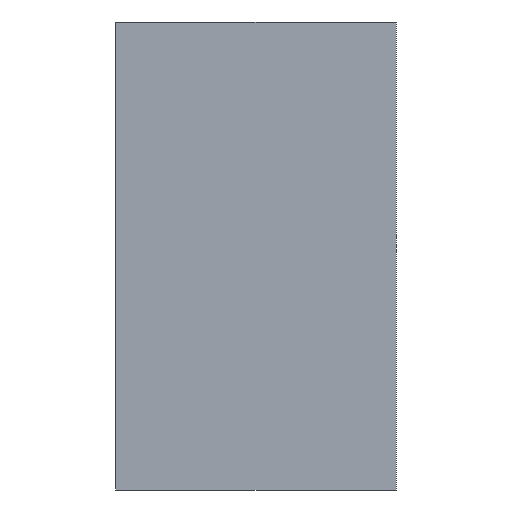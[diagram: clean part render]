
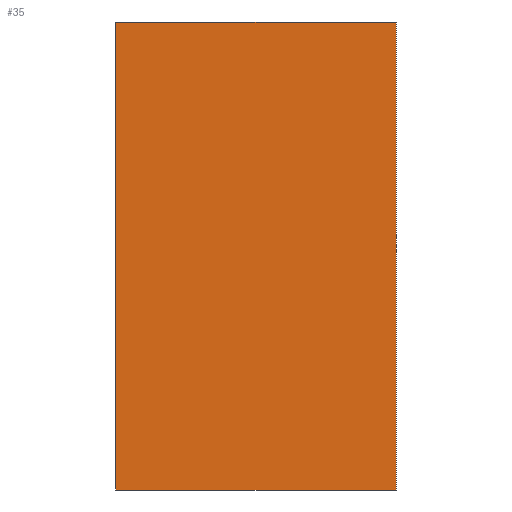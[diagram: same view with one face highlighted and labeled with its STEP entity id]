
A CAD part, top view. The second image highlights one B-rep face of the part: STEP entity #35.
In plain terms, the highlighted planar face has unit normal (0, 0, 1).
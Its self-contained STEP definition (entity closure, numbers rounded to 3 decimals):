
#2 = EDGE_LOOP ( 'NONE', ( #106, #17, #24, #34 ) ) ;
#3 = CARTESIAN_POINT ( 'NONE',  ( 0., 0., 0. ) ) ;
#5 = CARTESIAN_POINT ( 'NONE',  ( -150., 0., 0. ) ) ;
#7 = EDGE_CURVE ( 'NONE', #110, #75, #89, .T. ) ;
#8 = DIRECTION ( 'NONE',  ( 1., 0., 0. ) ) ;
#17 = ORIENTED_EDGE ( 'NONE', *, *, #23, .T. ) ;
#19 = DIRECTION ( 'NONE',  ( 1., 0., 0. ) ) ;
#23 = EDGE_CURVE ( 'NONE', #103, #61, #88, .T. ) ;
#24 = ORIENTED_EDGE ( 'NONE', *, *, #54, .T. ) ;
#28 = PLANE ( 'NONE',  #31 ) ;
#31 = AXIS2_PLACEMENT_3D ( 'NONE', #3, #38, #8 ) ;
#34 = ORIENTED_EDGE ( 'NONE', *, *, #7, .T. ) ;
#35 = ADVANCED_FACE ( 'NONE', ( #105 ), #28, .T. ) ;
#38 = DIRECTION ( 'NONE',  ( 0., 0., 1. ) ) ;
#42 = LINE ( 'NONE', #45, #113 ) ;
#43 = CARTESIAN_POINT ( 'NONE',  ( -150., 250., 0. ) ) ;
#44 = CARTESIAN_POINT ( 'NONE',  ( 0., 0., 0. ) ) ;
#45 = CARTESIAN_POINT ( 'NONE',  ( 0., 250., 0. ) ) ;
#52 = CARTESIAN_POINT ( 'NONE',  ( 0., 250., 0. ) ) ;
#54 = EDGE_CURVE ( 'NONE', #61, #110, #65, .T. ) ;
#61 = VERTEX_POINT ( 'NONE', #95 ) ;
#64 = VECTOR ( 'NONE', #93, 1000. ) ;
#65 = LINE ( 'NONE', #43, #82 ) ;
#75 = VERTEX_POINT ( 'NONE', #44 ) ;
#80 = VECTOR ( 'NONE', #19, 1000. ) ;
#82 = VECTOR ( 'NONE', #96, 1000. ) ;
#84 = EDGE_CURVE ( 'NONE', #75, #103, #42, .T. ) ;
#88 = LINE ( 'NONE', #94, #64 ) ;
#89 = LINE ( 'NONE', #107, #80 ) ;
#93 = DIRECTION ( 'NONE',  ( -1., 0., 0. ) ) ;
#94 = CARTESIAN_POINT ( 'NONE',  ( -150., 250., 0. ) ) ;
#95 = CARTESIAN_POINT ( 'NONE',  ( -150., 250., 0. ) ) ;
#96 = DIRECTION ( 'NONE',  ( 0., -1., 0. ) ) ;
#103 = VERTEX_POINT ( 'NONE', #52 ) ;
#105 = FACE_OUTER_BOUND ( 'NONE', #2, .T. ) ;
#106 = ORIENTED_EDGE ( 'NONE', *, *, #84, .T. ) ;
#107 = CARTESIAN_POINT ( 'NONE',  ( -150., 0., 0. ) ) ;
#110 = VERTEX_POINT ( 'NONE', #5 ) ;
#113 = VECTOR ( 'NONE', #125, 1000. ) ;
#125 = DIRECTION ( 'NONE',  ( 0., 1., 0. ) ) ;
